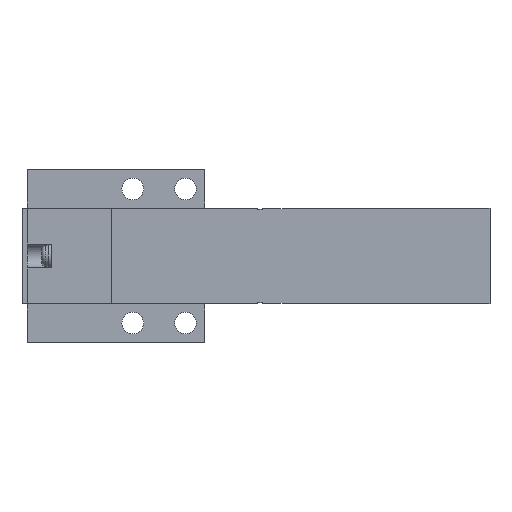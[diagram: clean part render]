
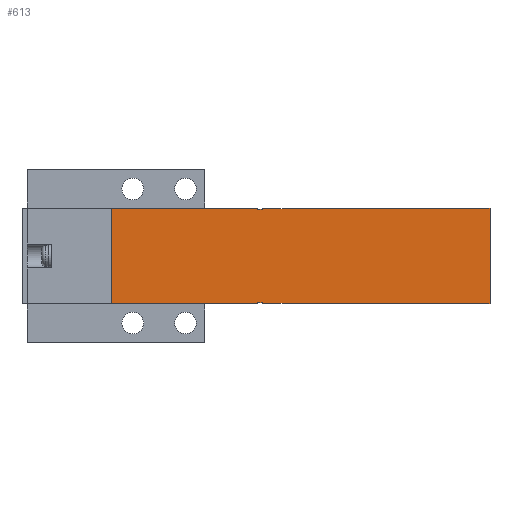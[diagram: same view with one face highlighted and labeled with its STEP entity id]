
A CAD part, front view. The second image highlights one B-rep face of the part: STEP entity #613.
In plain terms, the highlighted planar face has unit normal (0, -1, 0).
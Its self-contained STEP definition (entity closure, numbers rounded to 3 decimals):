
#613=ADVANCED_FACE('',(#1364),#1365,.F.);
#1364=FACE_OUTER_BOUND('',#2295,.T.);
#1365=PLANE('',#2296);
#2295=EDGE_LOOP('',(#4932,#4933,#4934,#4935,#4936,#4937,#4938,#4939,#4940,#4941,#4942,#4943,#4944,#4945,#4946,#4947,#4948,#4949,#4950,#4951,#4952,#4953,#4954,#4955));
#2296=AXIS2_PLACEMENT_3D('',#4956,#4957,#4958);
#4932=ORIENTED_EDGE('',*,*,#6628,.F.);
#4933=ORIENTED_EDGE('',*,*,#6736,.T.);
#4934=ORIENTED_EDGE('',*,*,#6737,.T.);
#4935=ORIENTED_EDGE('',*,*,#6738,.F.);
#4936=ORIENTED_EDGE('',*,*,#6739,.F.);
#4937=ORIENTED_EDGE('',*,*,#6740,.T.);
#4938=ORIENTED_EDGE('',*,*,#6741,.F.);
#4939=ORIENTED_EDGE('',*,*,#6742,.T.);
#4940=ORIENTED_EDGE('',*,*,#6658,.F.);
#4941=ORIENTED_EDGE('',*,*,#6743,.T.);
#4942=ORIENTED_EDGE('',*,*,#6707,.T.);
#4943=ORIENTED_EDGE('',*,*,#6646,.T.);
#4944=ORIENTED_EDGE('',*,*,#6744,.T.);
#4945=ORIENTED_EDGE('',*,*,#6723,.F.);
#4946=ORIENTED_EDGE('',*,*,#6745,.T.);
#4947=ORIENTED_EDGE('',*,*,#6746,.F.);
#4948=ORIENTED_EDGE('',*,*,#6747,.T.);
#4949=ORIENTED_EDGE('',*,*,#6748,.T.);
#4950=ORIENTED_EDGE('',*,*,#6749,.T.);
#4951=ORIENTED_EDGE('',*,*,#6750,.T.);
#4952=ORIENTED_EDGE('',*,*,#6751,.T.);
#4953=ORIENTED_EDGE('',*,*,#6752,.F.);
#4954=ORIENTED_EDGE('',*,*,#6753,.F.);
#4955=ORIENTED_EDGE('',*,*,#6754,.F.);
#4956=CARTESIAN_POINT('',(18.6,0.0,10.0));
#4957=DIRECTION('',(-0.0,1.0,0.0));
#4958=DIRECTION('',(1.0,0.0,0.0));
#6628=EDGE_CURVE('',#8139,#8142,#8143,.T.);
#6646=EDGE_CURVE('',#8177,#8175,#8178,.T.);
#6658=EDGE_CURVE('',#8198,#8200,#8201,.T.);
#6707=EDGE_CURVE('',#8288,#8177,#8289,.T.);
#6723=EDGE_CURVE('',#8315,#8317,#8318,.T.);
#6736=EDGE_CURVE('',#8139,#8339,#8340,.T.);
#6737=EDGE_CURVE('',#8339,#8341,#8342,.T.);
#6738=EDGE_CURVE('',#8343,#8341,#8344,.T.);
#6739=EDGE_CURVE('',#8345,#8343,#8346,.T.);
#6740=EDGE_CURVE('',#8345,#8347,#8348,.T.);
#6741=EDGE_CURVE('',#8349,#8347,#8350,.T.);
#6742=EDGE_CURVE('',#8349,#8200,#8351,.T.);
#6743=EDGE_CURVE('',#8198,#8288,#8352,.T.);
#6744=EDGE_CURVE('',#8175,#8317,#8353,.T.);
#6745=EDGE_CURVE('',#8315,#8354,#8355,.T.);
#6746=EDGE_CURVE('',#8356,#8354,#8357,.T.);
#6747=EDGE_CURVE('',#8356,#8358,#8359,.T.);
#6748=EDGE_CURVE('',#8358,#8360,#8361,.T.);
#6749=EDGE_CURVE('',#8360,#8362,#8363,.T.);
#6750=EDGE_CURVE('',#8362,#8364,#8365,.T.);
#6751=EDGE_CURVE('',#8364,#8366,#8367,.T.);
#6752=EDGE_CURVE('',#8368,#8366,#8369,.T.);
#6753=EDGE_CURVE('',#8370,#8368,#8371,.T.);
#6754=EDGE_CURVE('',#8142,#8370,#8372,.T.);
#8139=VERTEX_POINT('',#10570);
#8142=VERTEX_POINT('',#10574);
#8143=LINE('',#10575,#10576);
#8175=VERTEX_POINT('',#10624);
#8177=VERTEX_POINT('',#10627);
#8178=LINE('',#10628,#10629);
#8198=VERTEX_POINT('',#10658);
#8200=VERTEX_POINT('',#10661);
#8201=LINE('',#10662,#10663);
#8288=VERTEX_POINT('',#10796);
#8289=LINE('',#10797,#10798);
#8315=VERTEX_POINT('',#10833);
#8317=VERTEX_POINT('',#10836);
#8318=LINE('',#10837,#10838);
#8339=VERTEX_POINT('',#10870);
#8340=LINE('',#10871,#10872);
#8341=VERTEX_POINT('',#10873);
#8342=LINE('',#10874,#10875);
#8343=VERTEX_POINT('',#10876);
#8344=LINE('',#10877,#10878);
#8345=VERTEX_POINT('',#10879);
#8346=LINE('',#10880,#10881);
#8347=VERTEX_POINT('',#10882);
#8348=LINE('',#10883,#10884);
#8349=VERTEX_POINT('',#10885);
#8350=LINE('',#10886,#10887);
#8351=LINE('',#10888,#10889);
#8352=LINE('',#10890,#10891);
#8353=LINE('',#10892,#10893);
#8354=VERTEX_POINT('',#10894);
#8355=LINE('',#10895,#10896);
#8356=VERTEX_POINT('',#10897);
#8357=LINE('',#10898,#10899);
#8358=VERTEX_POINT('',#10900);
#8359=LINE('',#10901,#10902);
#8360=VERTEX_POINT('',#10903);
#8361=LINE('',#10904,#10905);
#8362=VERTEX_POINT('',#10906);
#8363=LINE('',#10907,#10908);
#8364=VERTEX_POINT('',#10909);
#8365=LINE('',#10910,#10911);
#8366=VERTEX_POINT('',#10912);
#8367=LINE('',#10913,#10914);
#8368=VERTEX_POINT('',#10915);
#8369=LINE('',#10916,#10917);
#8370=VERTEX_POINT('',#10918);
#8371=LINE('',#10919,#10920);
#8372=LINE('',#10921,#10922);
#10570=CARTESIAN_POINT('',(50.1,0.0,9.9));
#10574=CARTESIAN_POINT('',(55.1,0.0,9.9));
#10575=CARTESIAN_POINT('',(44.1,0.0,9.9));
#10576=VECTOR('',#12466,1.0);
#10624=CARTESIAN_POINT('',(35.1,0.0,-10.0));
#10627=CARTESIAN_POINT('',(35.1,0.0,-9.9));
#10628=CARTESIAN_POINT('',(35.1,0.0,-9.9));
#10629=VECTOR('',#12484,1.0);
#10658=CARTESIAN_POINT('',(18.6,0.0,9.9));
#10661=CARTESIAN_POINT('',(35.1,0.0,9.9));
#10662=CARTESIAN_POINT('',(18.6,0.0,9.9));
#10663=VECTOR('',#12498,1.0);
#10796=CARTESIAN_POINT('',(18.6,0.0,-9.9));
#10797=CARTESIAN_POINT('',(18.6,0.0,-9.9));
#10798=VECTOR('',#12551,1.0);
#10833=CARTESIAN_POINT('',(44.1,0.0,-9.9));
#10836=CARTESIAN_POINT('',(44.1,0.0,-10.0));
#10837=CARTESIAN_POINT('',(44.1,0.0,-9.9));
#10838=VECTOR('',#12574,1.0);
#10870=CARTESIAN_POINT('',(50.1,0.0,9.8));
#10871=CARTESIAN_POINT('',(50.1,0.0,10.0));
#10872=VECTOR('',#12589,1.0);
#10873=CARTESIAN_POINT('',(49.1,0.0,9.8));
#10874=CARTESIAN_POINT('',(18.6,0.0,9.8));
#10875=VECTOR('',#12590,1.0);
#10876=CARTESIAN_POINT('',(49.1,0.0,9.9));
#10877=CARTESIAN_POINT('',(49.1,0.0,10.0));
#10878=VECTOR('',#12591,1.0);
#10879=CARTESIAN_POINT('',(44.1,0.0,9.9));
#10880=CARTESIAN_POINT('',(44.1,0.0,9.9));
#10881=VECTOR('',#12592,1.0);
#10882=CARTESIAN_POINT('',(44.1,0.0,10.0));
#10883=CARTESIAN_POINT('',(44.1,0.0,9.9));
#10884=VECTOR('',#12593,1.0);
#10885=CARTESIAN_POINT('',(35.1,0.0,10.0));
#10886=CARTESIAN_POINT('',(18.6,0.0,10.0));
#10887=VECTOR('',#12594,1.0);
#10888=CARTESIAN_POINT('',(35.1,0.0,10.1));
#10889=VECTOR('',#12595,1.0);
#10890=CARTESIAN_POINT('',(18.6,0.0,10.0));
#10891=VECTOR('',#12596,1.0);
#10892=CARTESIAN_POINT('',(18.6,0.0,-10.0));
#10893=VECTOR('',#12597,1.0);
#10894=CARTESIAN_POINT('',(49.1,0.0,-9.9));
#10895=CARTESIAN_POINT('',(44.1,0.0,-9.9));
#10896=VECTOR('',#12598,1.0);
#10897=CARTESIAN_POINT('',(49.1,0.0,-9.8));
#10898=CARTESIAN_POINT('',(49.1,0.0,10.0));
#10899=VECTOR('',#12599,1.0);
#10900=CARTESIAN_POINT('',(50.1,0.0,-9.8));
#10901=CARTESIAN_POINT('',(18.6,0.0,-9.8));
#10902=VECTOR('',#12600,1.0);
#10903=CARTESIAN_POINT('',(50.1,0.0,-9.9));
#10904=CARTESIAN_POINT('',(50.1,0.0,10.0));
#10905=VECTOR('',#12601,1.0);
#10906=CARTESIAN_POINT('',(55.1,0.0,-9.9));
#10907=CARTESIAN_POINT('',(44.1,0.0,-9.9));
#10908=VECTOR('',#12602,1.0);
#10909=CARTESIAN_POINT('',(55.1,0.0,-10.0));
#10910=CARTESIAN_POINT('',(55.1,0.0,-9.9));
#10911=VECTOR('',#12603,1.0);
#10912=CARTESIAN_POINT('',(97.6,0.0,-10.0));
#10913=CARTESIAN_POINT('',(18.6,0.0,-10.0));
#10914=VECTOR('',#12604,1.0);
#10915=CARTESIAN_POINT('',(97.6,0.0,10.0));
#10916=CARTESIAN_POINT('',(97.6,0.0,10.0));
#10917=VECTOR('',#12605,1.0);
#10918=CARTESIAN_POINT('',(55.1,0.0,10.0));
#10919=CARTESIAN_POINT('',(18.6,0.0,10.0));
#10920=VECTOR('',#12606,1.0);
#10921=CARTESIAN_POINT('',(55.1,0.0,9.9));
#10922=VECTOR('',#12607,1.0);
#12466=DIRECTION('',(1.0,0.0,0.0));
#12484=DIRECTION('',(0.0,0.0,-1.0));
#12498=DIRECTION('',(1.0,0.0,0.0));
#12551=DIRECTION('',(1.0,0.0,0.0));
#12574=DIRECTION('',(0.0,0.0,-1.0));
#12589=DIRECTION('',(0.0,0.0,-1.0));
#12590=DIRECTION('',(-1.0,0.0,0.0));
#12591=DIRECTION('',(0.0,0.0,-1.0));
#12592=DIRECTION('',(1.0,0.0,0.0));
#12593=DIRECTION('',(0.0,0.0,1.0));
#12594=DIRECTION('',(1.0,0.0,0.0));
#12595=DIRECTION('',(0.0,0.0,-1.0));
#12596=DIRECTION('',(0.0,0.0,-1.0));
#12597=DIRECTION('',(1.0,0.0,0.0));
#12598=DIRECTION('',(1.0,0.0,0.0));
#12599=DIRECTION('',(0.0,0.0,-1.0));
#12600=DIRECTION('',(1.0,0.0,0.0));
#12601=DIRECTION('',(0.0,0.0,-1.0));
#12602=DIRECTION('',(1.0,0.0,0.0));
#12603=DIRECTION('',(0.0,0.0,-1.0));
#12604=DIRECTION('',(1.0,0.0,0.0));
#12605=DIRECTION('',(0.0,0.0,-1.0));
#12606=DIRECTION('',(1.0,0.0,0.0));
#12607=DIRECTION('',(0.0,0.0,1.0));
